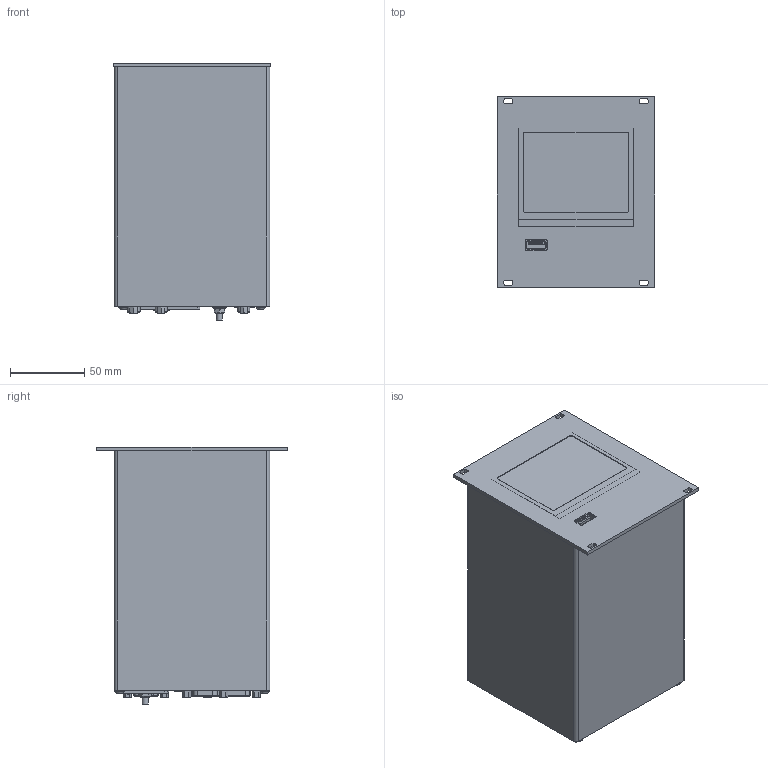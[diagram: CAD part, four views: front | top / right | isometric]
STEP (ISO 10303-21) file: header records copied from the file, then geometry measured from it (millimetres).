
FILE_DESCRIPTION((''),'2;1');
FILE_NAME('C:\Vault-Arbeitsordner\Konstruktionen\GRAPHIX controller\GRAPHIX ONE.stp','2015-02-27T12:42:32',(''),(''),'Autodesk Inventor 2012','Autodesk Inventor 2012','');
FILE_SCHEMA(('CONFIG_CONTROL_DESIGN'));
Length unit declared in the file: millimetre
Products named in the file (1): GRAPHIX ONE
Bounding box: 106.4 x 128.4 x 174 mm (x, y, z)
Volume: 1802017.7 mm3; surface area: 126677.4 mm2
Topology: 1 solids, 10 shells, 2074 faces, 5315 edges, 3355 vertices
Faces by surface type: plane 1249, cylinder 465, cone 186, bspline 95, torus 63, sphere 16
Full cylindrical faces by diameter (mm): 1.067 x9, 1.2 x49, 2.156 x8, 2.5 x1, 2.606 x8, 3 x4, 3.2 x8, 3.5 x1, 4 x2, 4.3 x1, 5.7 x4, 9 x1
Entity records: 66402 total; most frequent: CARTESIAN_POINT 15385, ORIENTED_EDGE 10096, DIRECTION 9869, EDGE_CURVE 5048, VECTOR 3473, LINE 3473, VERTEX_POINT 3285, AXIS2_PLACEMENT_3D 3198
